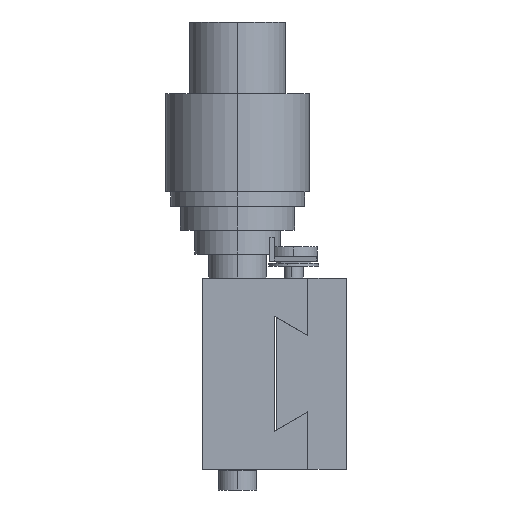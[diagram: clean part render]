
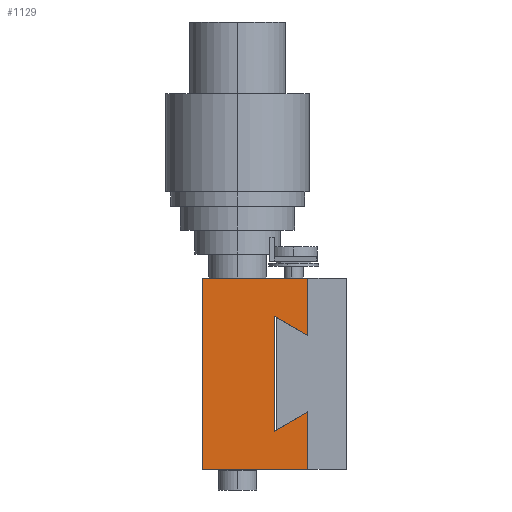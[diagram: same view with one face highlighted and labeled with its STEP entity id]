
A CAD part, left-side view. The second image highlights one B-rep face of the part: STEP entity #1129.
In plain terms, the highlighted planar face has unit normal (-1, 0, 0) as drawn and (1, 0, 0) by its records, which use the part's own axes.
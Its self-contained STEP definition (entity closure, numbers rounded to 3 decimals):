
#49 = EDGE_CURVE ( 'NONE', #3175, #3178, #2726, .T. ) ;
#52 = EDGE_CURVE ( 'NONE', #3174, #3176, #2730, .T. ) ;
#54 = EDGE_CURVE ( 'NONE', #3176, #3180, #2733, .T. ) ;
#56 = EDGE_CURVE ( 'NONE', #3180, #3182, #2736, .T. ) ;
#58 = EDGE_CURVE ( 'NONE', #3182, #3183, #2741, .T. ) ;
#60 = EDGE_CURVE ( 'NONE', #3183, #3184, #2747, .T. ) ;
#63 = EDGE_CURVE ( 'NONE', #3184, #3175, #2766, .T. ) ;
#728 = EDGE_CURVE ( 'NONE', #3178, #3174, #1452, .T. ) ;
#828 = VECTOR ( 'NONE', #2770, 1000. ) ;
#854 = VECTOR ( 'NONE', #2756, 1000. ) ;
#879 = VECTOR ( 'NONE', #2745, 1000. ) ;
#910 = VECTOR ( 'NONE', #2761, 1000. ) ;
#954 = VECTOR ( 'NONE', #2739, 1000. ) ;
#966 = VECTOR ( 'NONE', #2751, 1000. ) ;
#983 = VECTOR ( 'NONE', #2731, 1000. ) ;
#1129 = ADVANCED_FACE ( 'NONE', ( #1641 ), #1642, .F. ) ;
#1452 = LINE ( 'NONE', #1453, #4265 ) ;
#1453 = CARTESIAN_POINT ( 'NONE',  ( 20., -20., 22.75 ) ) ;
#1454 = DIRECTION ( 'NONE',  ( 0., 0., -1. ) ) ;
#1639 = CARTESIAN_POINT ( 'NONE',  ( 20., 20., 0.75 ) ) ;
#1641 = FACE_OUTER_BOUND ( 'NONE', #2523, .T. ) ;
#1642 = PLANE ( 'NONE',  #4315 ) ;
#1644 = DIRECTION ( 'NONE',  ( -1., 0., 0. ) ) ;
#1645 = DIRECTION ( 'NONE',  ( 0., 1., 0. ) ) ;
#2193 = CARTESIAN_POINT ( 'NONE',  ( 20., -20., 0.75 ) ) ;
#2194 = CARTESIAN_POINT ( 'NONE',  ( 20., 20., 22.75 ) ) ;
#2195 = CARTESIAN_POINT ( 'NONE',  ( 20., -8., 0.75 ) ) ;
#2197 = CARTESIAN_POINT ( 'NONE',  ( 20., -20., 22.75 ) ) ;
#2199 = CARTESIAN_POINT ( 'NONE',  ( 20., -12.041, 7.75 ) ) ;
#2201 = CARTESIAN_POINT ( 'NONE',  ( 20., 12.041, 7.75 ) ) ;
#2202 = CARTESIAN_POINT ( 'NONE',  ( 20., 8., 0.75 ) ) ;
#2203 = CARTESIAN_POINT ( 'NONE',  ( 20., 20., 0.75 ) ) ;
#2523 = EDGE_LOOP ( 'NONE', ( #3258, #3259, #3260, #3261, #3262, #3263, #3264, #3265 ) ) ;
#2594 = CARTESIAN_POINT ( 'NONE',  ( 20., 20., 22.75 ) ) ;
#2726 = LINE ( 'NONE', #2594, #983 ) ;
#2730 = LINE ( 'NONE', #2738, #954 ) ;
#2731 = DIRECTION ( 'NONE',  ( 0., -1., 0. ) ) ;
#2733 = LINE ( 'NONE', #2744, #879 ) ;
#2736 = LINE ( 'NONE', #2750, #966 ) ;
#2738 = CARTESIAN_POINT ( 'NONE',  ( 20., -8., 0.75 ) ) ;
#2739 = DIRECTION ( 'NONE',  ( 0., 1., 0. ) ) ;
#2741 = LINE ( 'NONE', #2755, #854 ) ;
#2744 = CARTESIAN_POINT ( 'NONE',  ( 20., -12.041, 7.75 ) ) ;
#2745 = DIRECTION ( 'NONE',  ( 0., -0.5, 0.866 ) ) ;
#2747 = LINE ( 'NONE', #2760, #910 ) ;
#2750 = CARTESIAN_POINT ( 'NONE',  ( 20., 12.041, 7.75 ) ) ;
#2751 = DIRECTION ( 'NONE',  ( 0., 1., 0. ) ) ;
#2755 = CARTESIAN_POINT ( 'NONE',  ( 20., 8., 0.75 ) ) ;
#2756 = DIRECTION ( 'NONE',  ( 0., -0.5, -0.866 ) ) ;
#2760 = CARTESIAN_POINT ( 'NONE',  ( 20., 20., 0.75 ) ) ;
#2761 = DIRECTION ( 'NONE',  ( 0., 1., 0. ) ) ;
#2762 = CARTESIAN_POINT ( 'NONE',  ( 20., 20., 22.75 ) ) ;
#2766 = LINE ( 'NONE', #2762, #828 ) ;
#2770 = DIRECTION ( 'NONE',  ( 0., 0., 1. ) ) ;
#3174 = VERTEX_POINT ( 'NONE', #2193 ) ;
#3175 = VERTEX_POINT ( 'NONE', #2194 ) ;
#3176 = VERTEX_POINT ( 'NONE', #2195 ) ;
#3178 = VERTEX_POINT ( 'NONE', #2197 ) ;
#3180 = VERTEX_POINT ( 'NONE', #2199 ) ;
#3182 = VERTEX_POINT ( 'NONE', #2201 ) ;
#3183 = VERTEX_POINT ( 'NONE', #2202 ) ;
#3184 = VERTEX_POINT ( 'NONE', #2203 ) ;
#3258 = ORIENTED_EDGE ( 'NONE', *, *, #63, .T. ) ;
#3259 = ORIENTED_EDGE ( 'NONE', *, *, #49, .T. ) ;
#3260 = ORIENTED_EDGE ( 'NONE', *, *, #728, .T. ) ;
#3261 = ORIENTED_EDGE ( 'NONE', *, *, #52, .T. ) ;
#3262 = ORIENTED_EDGE ( 'NONE', *, *, #54, .T. ) ;
#3263 = ORIENTED_EDGE ( 'NONE', *, *, #56, .T. ) ;
#3264 = ORIENTED_EDGE ( 'NONE', *, *, #58, .T. ) ;
#3265 = ORIENTED_EDGE ( 'NONE', *, *, #60, .T. ) ;
#4265 = VECTOR ( 'NONE', #1454, 1000. ) ;
#4315 = AXIS2_PLACEMENT_3D ( 'NONE', #1639, #1644, #1645 ) ;
